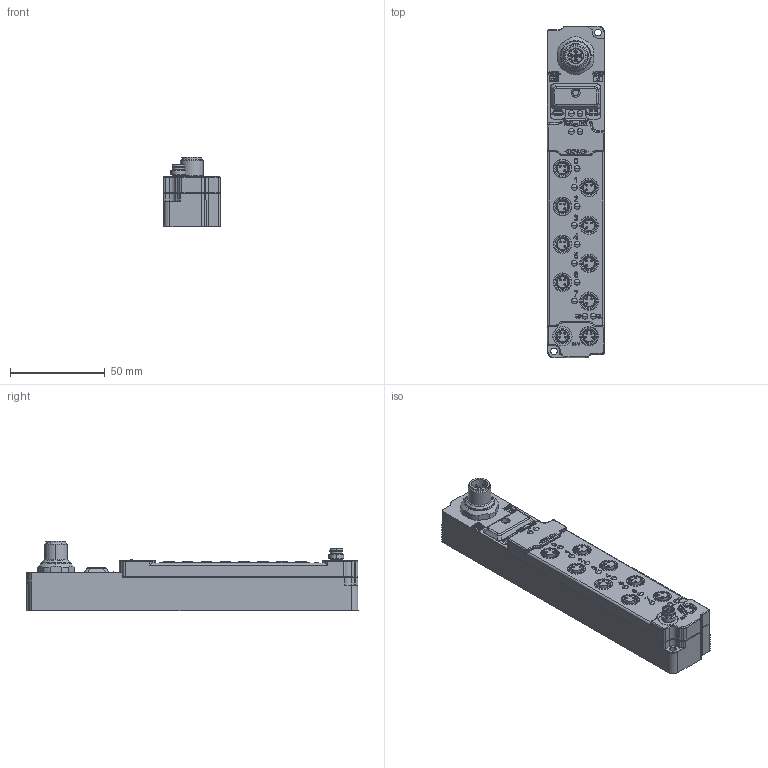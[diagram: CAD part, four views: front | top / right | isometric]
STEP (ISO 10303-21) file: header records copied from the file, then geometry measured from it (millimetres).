
FILE_DESCRIPTION (( 'STEP AP203' ), '1' );
FILE_NAME ('SDPB-0404D-M8.step', '2014-10-30T19:49:43', ( 'Turck User' ), ( '' ), 'SwSTEP 2.0', 'SolidWorks 2014', '' );
FILE_SCHEMA (( 'CONFIG_CONTROL_DESIGN' ));
Length unit declared in the file: millimetre
Products named in the file (1): SDPB-0404D-M8
Bounding box: 30.3 x 175.3 x 36.65 mm (x, y, z)
Volume: 124116.8 mm3; surface area: 28690.1 mm2
Topology: 1 solids, 1 shells, 1604 faces, 4053 edges, 2556 vertices
Faces by surface type: plane 633, cylinder 411, bspline 338, cone 222
Entity records: 53112 total; most frequent: CARTESIAN_POINT 16059, ORIENTED_EDGE 7962, DIRECTION 7143, EDGE_CURVE 3981, VERTEX_POINT 2556, AXIS2_PLACEMENT_3D 2429, VECTOR 2285, LINE 2285
